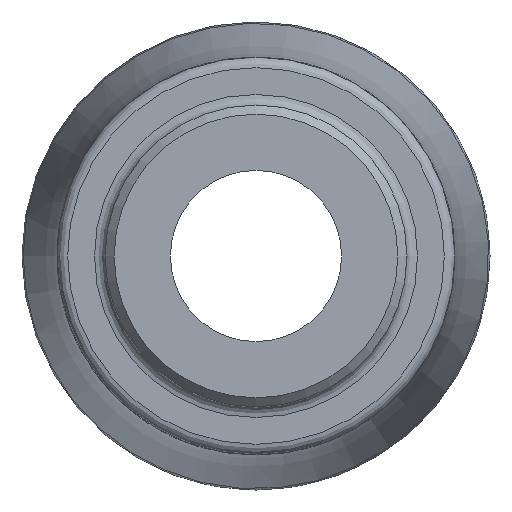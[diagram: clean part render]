
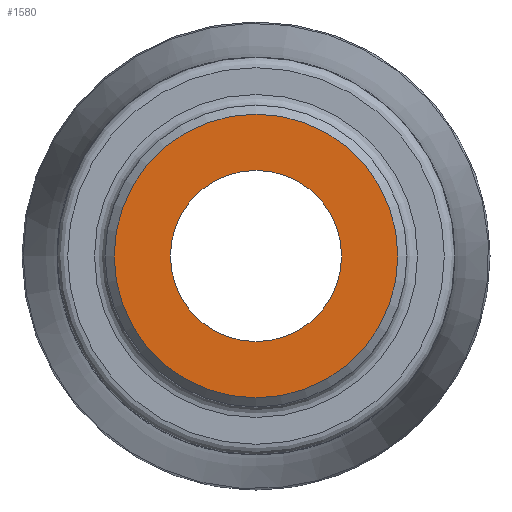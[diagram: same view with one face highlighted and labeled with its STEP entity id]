
A CAD part, left-side view. The second image highlights one B-rep face of the part: STEP entity #1580.
In plain terms, the highlighted planar face has unit normal (-1, 0, 0).
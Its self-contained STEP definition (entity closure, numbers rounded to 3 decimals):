
#261=PLANE('',#1734);
#352=FACE_BOUND('',#496,.T.);
#388=FACE_OUTER_BOUND('',#495,.T.);
#495=EDGE_LOOP('',(#1222));
#496=EDGE_LOOP('',(#1223));
#626=CIRCLE('',#1730,12.427);
#629=CIRCLE('',#1735,7.5);
#736=VERTEX_POINT('',#2828);
#739=VERTEX_POINT('',#2836);
#914=EDGE_CURVE('',#736,#736,#626,.T.);
#917=EDGE_CURVE('',#739,#739,#629,.T.);
#1222=ORIENTED_EDGE('',*,*,#914,.F.);
#1223=ORIENTED_EDGE('',*,*,#917,.T.);
#1580=ADVANCED_FACE('',(#388,#352),#261,.T.);
#1730=AXIS2_PLACEMENT_3D('',#2829,#2013,#2014);
#1734=AXIS2_PLACEMENT_3D('',#2835,#2021,#2022);
#1735=AXIS2_PLACEMENT_3D('',#2837,#2023,#2024);
#2013=DIRECTION('center_axis',(1.,0.,0.));
#2014=DIRECTION('ref_axis',(0.,-1.,0.));
#2021=DIRECTION('center_axis',(-1.,0.,0.));
#2022=DIRECTION('ref_axis',(0.,0.,1.));
#2023=DIRECTION('center_axis',(1.,0.,0.));
#2024=DIRECTION('ref_axis',(0.,0.,-1.));
#2828=CARTESIAN_POINT('',(0.,12.427,0.));
#2829=CARTESIAN_POINT('Origin',(0.,0.,0.));
#2835=CARTESIAN_POINT('Origin',(0.,13.221,0.));
#2836=CARTESIAN_POINT('',(0.,7.5,0.));
#2837=CARTESIAN_POINT('Origin',(0.,0.,0.));
